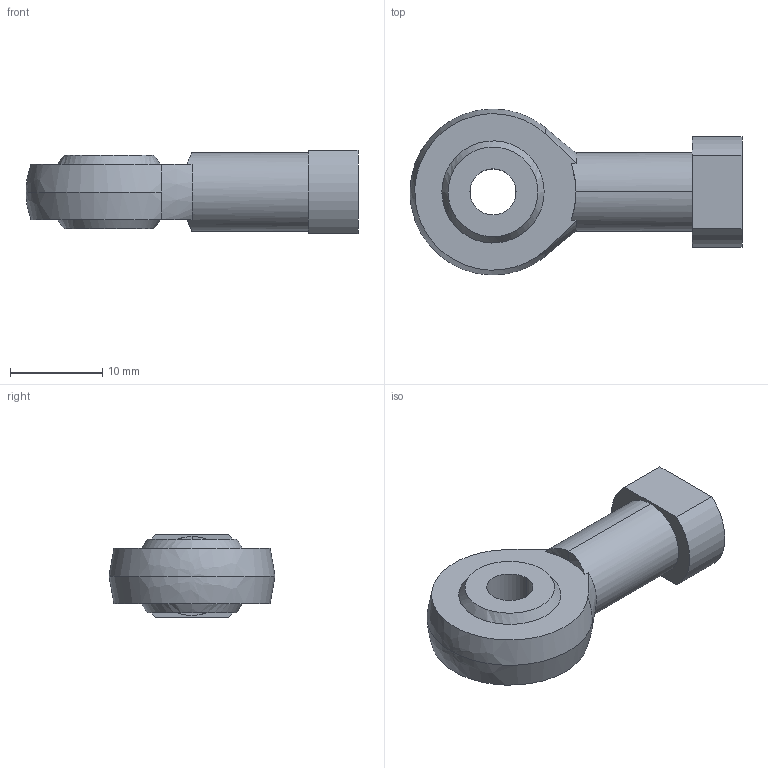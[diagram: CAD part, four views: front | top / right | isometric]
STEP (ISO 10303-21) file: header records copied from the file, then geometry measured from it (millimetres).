
FILE_DESCRIPTION (( 'STEP AP214' ), '1' );
FILE_NAME ('14.STK04.STEP', '2017-11-09T09:29:54', ( '' ), ( '' ), 'SwSTEP 2.0', 'SolidWorks 2016', '' );
FILE_SCHEMA (( 'AUTOMOTIVE_DESIGN' ));
Length unit declared in the file: millimetre
Products named in the file (1): 14.STK04
Bounding box: 36 x 18 x 9 mm (x, y, z)
Volume: 2709.1 mm3; surface area: 2125.1 mm2
Topology: 2 solids, 2 shells, 36 faces, 94 edges, 57 vertices
Faces by surface type: cylinder 13, plane 9, cone 8, bspline 6
Entity records: 1986 total; most frequent: CARTESIAN_POINT 736, ORIENTED_EDGE 164, DIRECTION 163, EDGE_CURVE 82, AXIS2_PLACEMENT_3D 68, VERTEX_POINT 57, EDGE_LOOP 47, UNCERTAINTY_MEASURE_WITH_UNIT 40
